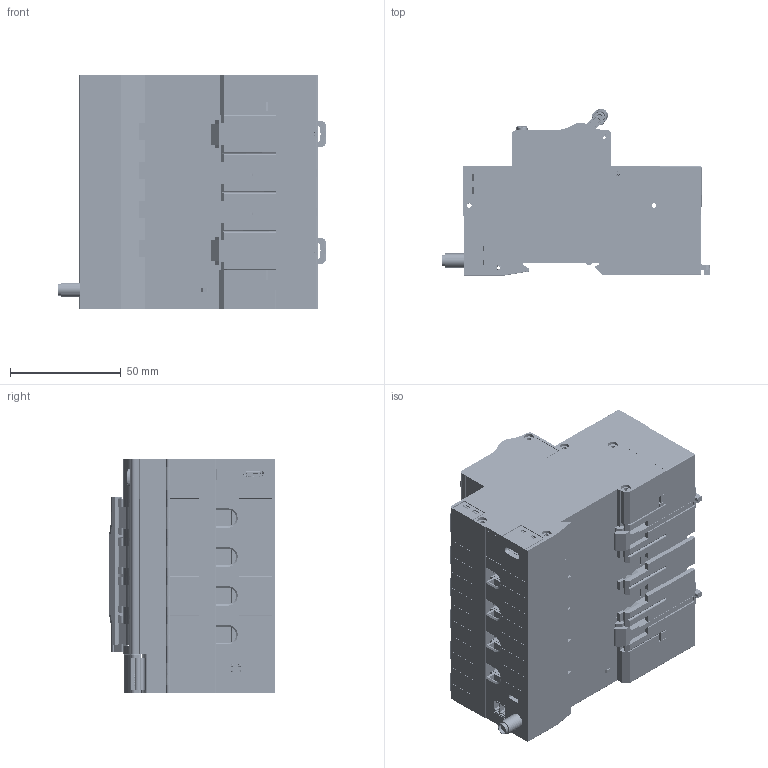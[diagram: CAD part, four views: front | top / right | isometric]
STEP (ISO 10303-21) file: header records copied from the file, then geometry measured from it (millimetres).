
FILE_DESCRIPTION (( 'STEP AP214' ), '1' );
FILE_NAME ('NDB5EL-80X-4P.STEP', '2025-05-08T02:21:16', ( '' ), ( '' ), 'SwSTEP 2.0', 'SolidWorks 2018', '' );
FILE_SCHEMA (( 'AUTOMOTIVE_DESIGN' ));
Length unit declared in the file: millimetre
Products named in the file (1): NDB5EL-80X-4P
Bounding box: 121.09 x 75.38 x 106 mm (x, y, z)
Surface area: 331854.3 mm2 (no closed solid volume)
Topology: 0 solids, 294 shells, 20889 faces, 57914 edges, 38123 vertices
Faces by surface type: plane 13443, cylinder 4291, bspline 1831, cone 971, torus 311, sphere 42
Entity records: 1104509 total; most frequent: CARTESIAN_POINT 353362, ORIENTED_EDGE 115682, DIRECTION 95723, EDGE_CURVE 57882, VECTOR 40091, LINE 40091, VERTEX_POINT 38121, AXIS2_PLACEMENT_3D 27816
